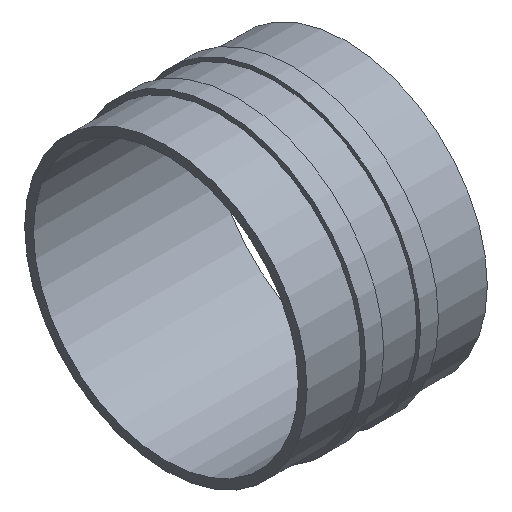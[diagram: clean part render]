
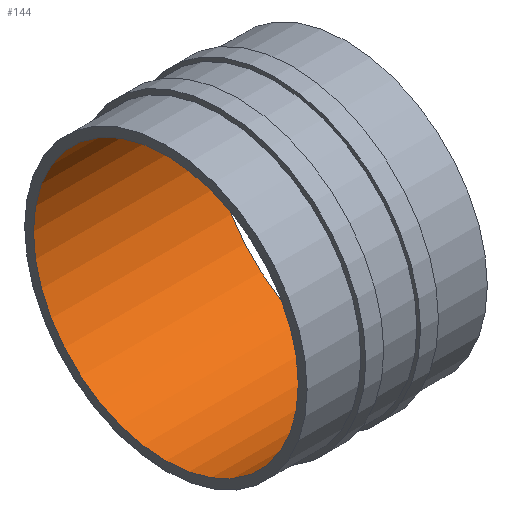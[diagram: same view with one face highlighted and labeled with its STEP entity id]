
A CAD part, isometric view. The second image highlights one B-rep face of the part: STEP entity #144.
In plain terms, the highlighted cylindrical face has radius 147.7 mm (diameter 295.4 mm), a full revolution.
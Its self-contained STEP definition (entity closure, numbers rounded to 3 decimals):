
#18=CYLINDRICAL_SURFACE($,#171,147.7);
#33=FACE_BOUND($,#66,.T.);
#42=FACE_OUTER_BOUND($,#65,.T.);
#65=EDGE_LOOP($,(#125));
#66=EDGE_LOOP($,(#126));
#68=CIRCLE($,#150,147.7);
#78=CIRCLE($,#170,147.7);
#80=VERTEX_POINT($,#226);
#90=VERTEX_POINT($,#256);
#92=EDGE_CURVE($,#80,#80,#68,.T.);
#102=EDGE_CURVE($,#90,#90,#78,.T.);
#125=ORIENTED_EDGE($,*,*,#92,.F.);
#126=ORIENTED_EDGE($,*,*,#102,.T.);
#144=ADVANCED_FACE($,(#42,#33),#18,.F.);
#150=AXIS2_PLACEMENT_3D($,#227,#178,#179);
#170=AXIS2_PLACEMENT_3D($,#257,#218,#219);
#171=AXIS2_PLACEMENT_3D($,#258,#220,#221);
#178=DIRECTION('center_axis',(1.,0.,0.));
#179=DIRECTION('ref_axis',(0.,1.,0.));
#218=DIRECTION('center_axis',(1.,0.,0.));
#219=DIRECTION('ref_axis',(0.,1.,0.));
#220=DIRECTION('center_axis',(1.,0.,0.));
#221=DIRECTION('ref_axis',(0.,1.,0.));
#226=CARTESIAN_POINT('',(0.,147.7,0.));
#227=CARTESIAN_POINT('Origin',(0.,0.,0.));
#256=CARTESIAN_POINT('',(201.,147.7,0.));
#257=CARTESIAN_POINT('Origin',(201.,0.,0.));
#258=CARTESIAN_POINT('Origin',(100.5,0.,0.));
